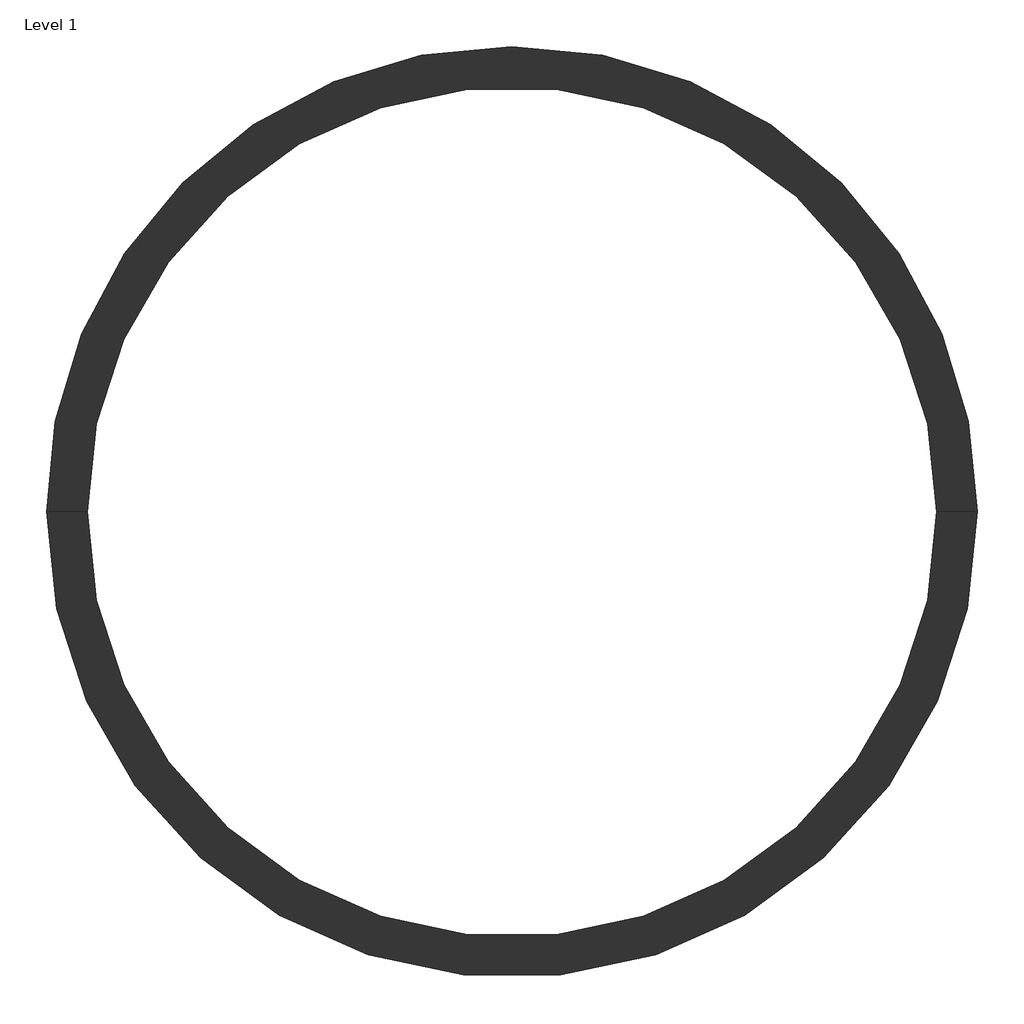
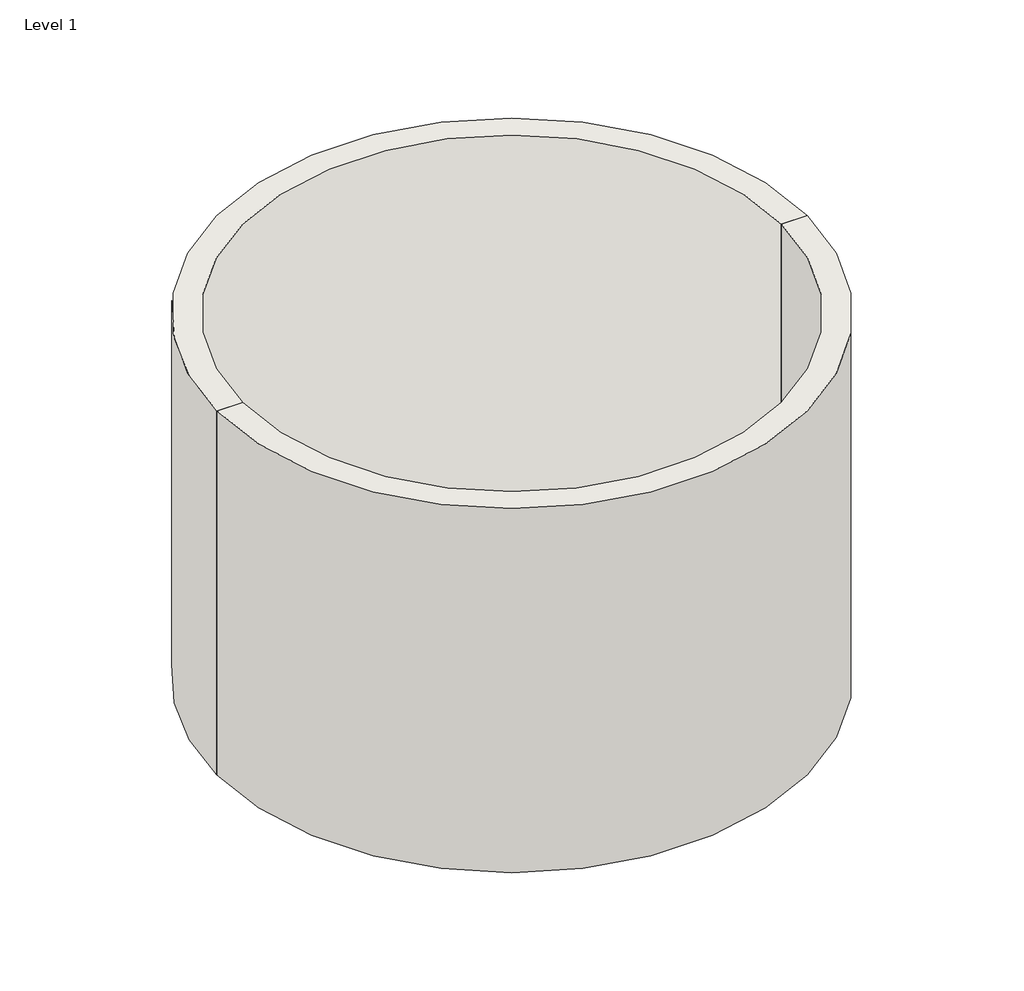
# One storey: 2 walls.
"""IFC4 building model written with IfcOpenShell, lengths in millimetres."""

from ifc_helpers import new_model, si_unit, point, frame_2d, origin, origin_with_axes, place, context, project, spatial, polyline, circle_curve, trimmed, segment, composite_curve, outline, extrude, element, save

model = new_model("IFC4")

# Units and contexts
model_context = context("Model", 3, world=origin())
ifc_project = project(units=[si_unit("LENGTHUNIT", "METRE", prefix="MILLI")], contexts=[model_context])

# Site, building, storey
site = spatial("IfcSite", under=ifc_project)
building = spatial("IfcBuilding", under=site)
storey = spatial("IfcBuildingStorey", under=building, Name="Level 1", Elevation=0.0)

# Walls
placement = place(None, origin())
element("IfcWall", 1, ObjectType="Generic - 8\"", at=placement, inside=storey, context=model_context, shape_type="SweptSolid", body=[
    extrude(outline(composite_curve([segment(polyline([(-16361.7297008, 11271.7931647), (-16564.9297008, 11271.7931647)]), True, "CONTINUOUS"), segment(trimmed(circle_curve(frame_2d((-14228.1297008, 11271.7931647)), 2336.8), [point((-16564.9297008, 11271.7931647))], [point((-11891.3297008, 11271.7931647))], False, "CARTESIAN"), True, "CONTINUOUS"), segment(polyline([(-11891.3297008, 11271.7931647), (-12094.5297008, 11271.7931647)]), True, "CONTINUOUS"), segment(trimmed(circle_curve(frame_2d((-14228.1297008, 11271.7931647)), 2133.6), [point((-12094.5297008, 11271.7931647))], [point((-16361.7297008, 11271.7931647))], True, "CARTESIAN"), True, "CONTINUOUS")], self_intersect=False)), origin_with_axes(), (0.0, 0.0, 1.0), 3048.0),
])
element("IfcWall", 2, ObjectType="Generic - 8\"", at=placement, inside=storey, context=model_context, shape_type="SweptSolid", body=[
    extrude(outline(composite_curve([segment(polyline([(-12094.5297008, 11271.7931647), (-11891.3297008, 11271.7931647)]), True, "CONTINUOUS"), segment(trimmed(circle_curve(frame_2d((-14228.1297008, 11271.7931647)), 2336.8), [point((-11891.3297008, 11271.7931647))], [point((-16564.9297008, 11271.7931647))], False, "CARTESIAN"), True, "CONTINUOUS"), segment(polyline([(-16564.9297008, 11271.7931647), (-16361.7297008, 11271.7931647)]), True, "CONTINUOUS"), segment(trimmed(circle_curve(frame_2d((-14228.1297008, 11271.7931647)), 2133.6), [point((-16361.7297008, 11271.7931647))], [point((-12094.5297008, 11271.7931647))], True, "CARTESIAN"), True, "CONTINUOUS")], self_intersect=False)), origin_with_axes(), (0.0, 0.0, 1.0), 3048.0),
])

save(model, "model.ifc")
